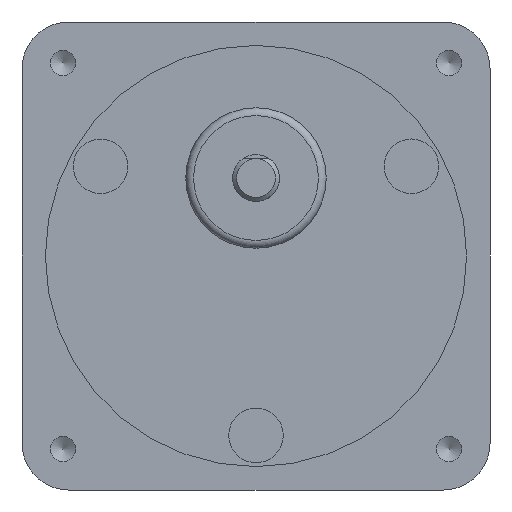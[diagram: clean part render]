
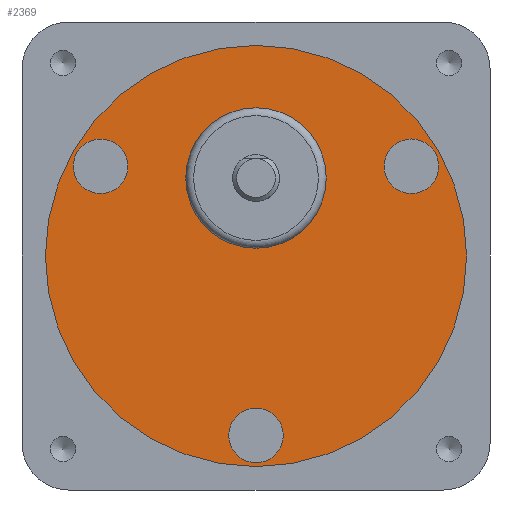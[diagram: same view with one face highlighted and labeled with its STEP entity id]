
A CAD part, front view. The second image highlights one B-rep face of the part: STEP entity #2369.
In plain terms, the highlighted planar face has unit normal (0, -1, 0).
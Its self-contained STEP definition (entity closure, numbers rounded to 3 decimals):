
#1241=CARTESIAN_POINT('',(18.169,-3.5,14.531));
#1242=VERTEX_POINT('',#1241);
#1243=CARTESIAN_POINT('',(19.919,-3.5,11.5));
#1244=DIRECTION('',(0.0,1.0,0.0));
#1245=DIRECTION('',(0.5,0.0,-0.866));
#1246=AXIS2_PLACEMENT_3D('',#1243,#1244,#1245);
#1247=CIRCLE('',#1246,3.5);
#1248=EDGE_CURVE('',#1242,#1242,#1247,.T.);
#1278=CARTESIAN_POINT('',(-21.669,-3.5,8.469));
#1279=VERTEX_POINT('',#1278);
#1280=CARTESIAN_POINT('',(-19.919,-3.5,11.5));
#1281=DIRECTION('',(0.0,1.,0.0));
#1282=DIRECTION('',(0.5,0.0,0.866));
#1283=AXIS2_PLACEMENT_3D('',#1280,#1281,#1282);
#1284=CIRCLE('',#1283,3.5);
#1285=EDGE_CURVE('',#1279,#1279,#1284,.T.);
#1315=CARTESIAN_POINT('',(3.5,-3.5,-23.));
#1316=VERTEX_POINT('',#1315);
#1317=CARTESIAN_POINT('',(0.,-3.5,-23.));
#1318=DIRECTION('',(0.0,1.0,0.0));
#1319=DIRECTION('',(-1.0,0.0,0.0));
#1320=AXIS2_PLACEMENT_3D('',#1317,#1318,#1319);
#1321=CIRCLE('',#1320,3.5);
#1322=EDGE_CURVE('',#1316,#1316,#1321,.T.);
#2318=CARTESIAN_POINT('',(27.,-3.5,0.));
#2319=VERTEX_POINT('',#2318);
#2320=CARTESIAN_POINT('',(0.,-3.5,0.));
#2321=DIRECTION('',(0.0,-1.0,0.0));
#2322=DIRECTION('',(-1.0,0.0,0.0));
#2323=AXIS2_PLACEMENT_3D('',#2320,#2321,#2322);
#2324=CIRCLE('',#2323,27.0);
#2325=EDGE_CURVE('',#2319,#2319,#2324,.T.);
#2341=CARTESIAN_POINT('',(0.,-3.5,0.));
#2342=DIRECTION('',(0.0,1.0,0.0));
#2343=DIRECTION('',(0.0,0.0,1.0));
#2344=AXIS2_PLACEMENT_3D('',#2341,#2342,#2343);
#2345=PLANE('',#2344);
#2346=ORIENTED_EDGE('',*,*,#2325,.T.);
#2347=EDGE_LOOP('',(#2346));
#2348=FACE_OUTER_BOUND('',#2347,.T.);
#2349=ORIENTED_EDGE('',*,*,#1248,.T.);
#2350=EDGE_LOOP('',(#2349));
#2351=FACE_BOUND('',#2350,.T.);
#2352=ORIENTED_EDGE('',*,*,#1285,.T.);
#2353=EDGE_LOOP('',(#2352));
#2354=FACE_BOUND('',#2353,.T.);
#2355=ORIENTED_EDGE('',*,*,#1322,.T.);
#2356=EDGE_LOOP('',(#2355));
#2357=FACE_BOUND('',#2356,.T.);
#2358=CARTESIAN_POINT('',(9.,-3.5,10.));
#2359=VERTEX_POINT('',#2358);
#2360=CARTESIAN_POINT('',(0.,-3.5,10.));
#2361=DIRECTION('',(0.0,-1.0,0.0));
#2362=DIRECTION('',(-1.0,0.0,0.0));
#2363=AXIS2_PLACEMENT_3D('',#2360,#2361,#2362);
#2364=CIRCLE('',#2363,9.0);
#2365=EDGE_CURVE('',#2359,#2359,#2364,.T.);
#2366=ORIENTED_EDGE('',*,*,#2365,.F.);
#2367=EDGE_LOOP('',(#2366));
#2368=FACE_BOUND('',#2367,.T.);
#2369=ADVANCED_FACE('',(#2348,#2351,#2354,#2357,#2368),#2345,.F.);
